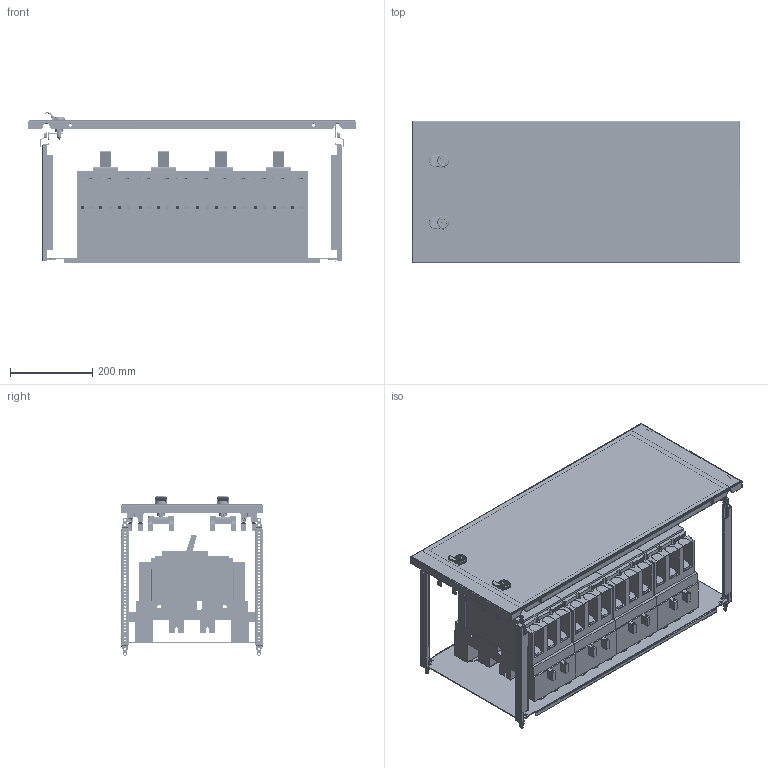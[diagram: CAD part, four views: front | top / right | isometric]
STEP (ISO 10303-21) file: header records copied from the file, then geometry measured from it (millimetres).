
FILE_DESCRIPTION(('CAx-IF Rec.Pracs.---Model Styling and Organization---1.2---2011-12-15','CAx-IF Rec.Pracs.---Geometric and Assembly Validation Properties---4.1---2014-06-16','CAx-IF Rec.Pracs.---PMI Polyline Presentation---2.0---2013-05-24'),'2;1');
FILE_NAME('R5PKEB7V82116 (P).stp','2021-07-29T02:56:07+03:00',(''),(''),'STEP Interface 4.4 by CT CoreTechnologie','3D_Evolution4.4 by CT CoreTechnologie','');
FILE_SCHEMA(('AUTOMOTIVE_DESIGN { 1 0 10303 214 1 1 1 1 }'));
Length unit declared in the file: millimetre
Products named in the file (1): R5PKEB7V82116 (P)
Bounding box: 794 x 345 x 386.89 mm (x, y, z)
Surface area: 3231318.6 mm2 (no closed solid volume)
Topology: 0 solids, 121 shells, 5041 faces, 13924 edges, 9140 vertices
Faces by surface type: plane 2537, cylinder 1536, bspline 968
Entity records: 177446 total; most frequent: CARTESIAN_POINT 48516, ORIENTED_EDGE 27596, DIRECTION 25998, EDGE_CURVE 13834, VERTEX_POINT 9148, VECTOR 8906, LINE 8906, AXIS2_PLACEMENT_3D 8546
